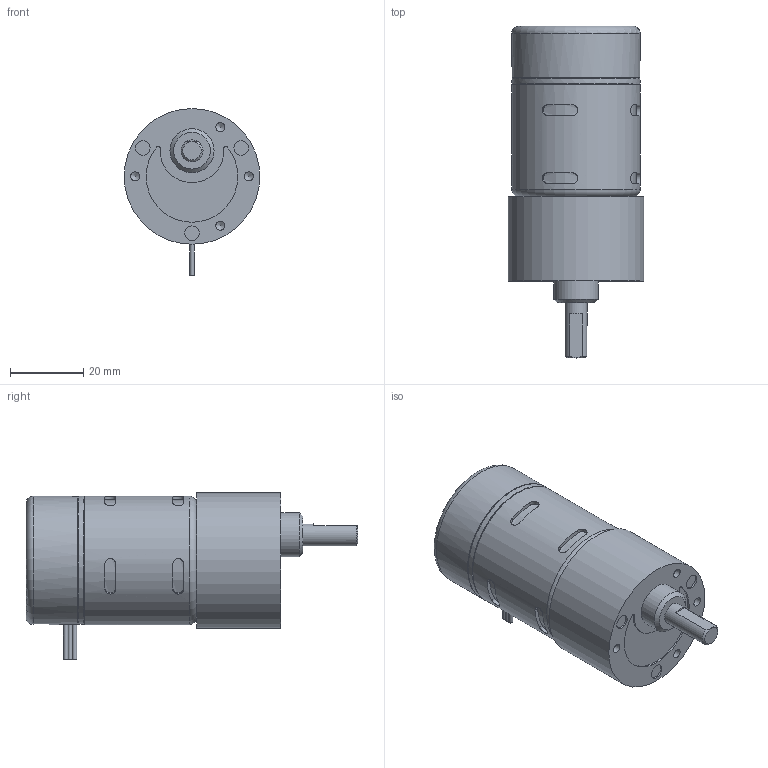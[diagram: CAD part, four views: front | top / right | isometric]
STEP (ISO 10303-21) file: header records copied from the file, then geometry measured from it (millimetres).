
FILE_DESCRIPTION((''),'2;1');
FILE_NAME('C:\Documents and Settings\SSEGAWA\デスクトップ\TP-3546B-KM-2.STP','2013-07-30T15:49:32',('SSEGAWA'),(''),'Autodesk Inventor 2010','Autodesk Inventor 2010','');
FILE_SCHEMA(('CONFIG_CONTROL_DESIGN'));
Length unit declared in the file: millimetre
Products named in the file (1): tp_3546bd_km_2_Shrinkwrap_1
Bounding box: 37 x 90.5 x 45.5 mm (x, y, z)
Volume: 69870.5 mm3; surface area: 11301.2 mm2
Topology: 1 solids, 5 shells, 106 faces, 237 edges, 153 vertices
Faces by surface type: plane 43, cylinder 43, bspline 16, torus 2, cone 2
Full cylindrical faces by diameter (mm): 1.2 x2, 4 x3, 6 x1, 12 x1, 34.6 x1, 35 x3, 37 x1
Entity records: 3466 total; most frequent: CARTESIAN_POINT 1264, DIRECTION 429, ORIENTED_EDGE 376, EDGE_CURVE 188, AXIS2_PLACEMENT_3D 184, EDGE_LOOP 149, VERTEX_POINT 133, STYLED_ITEM 107
